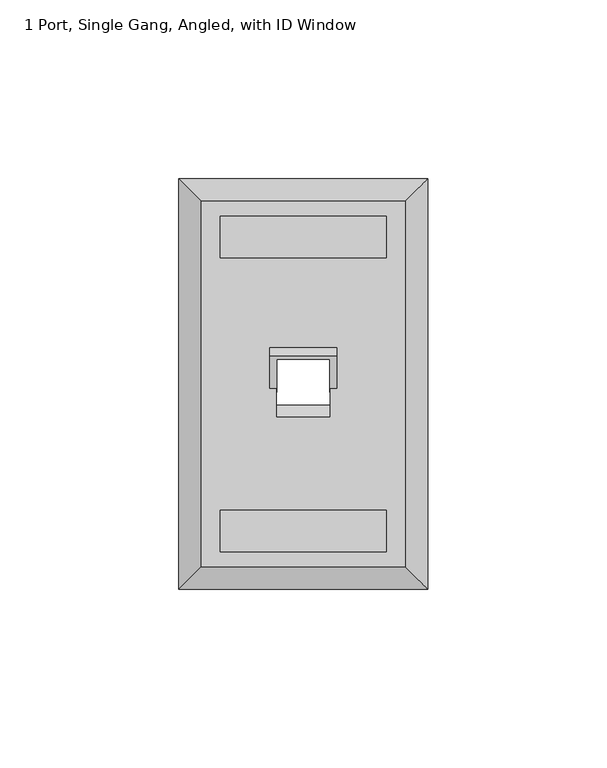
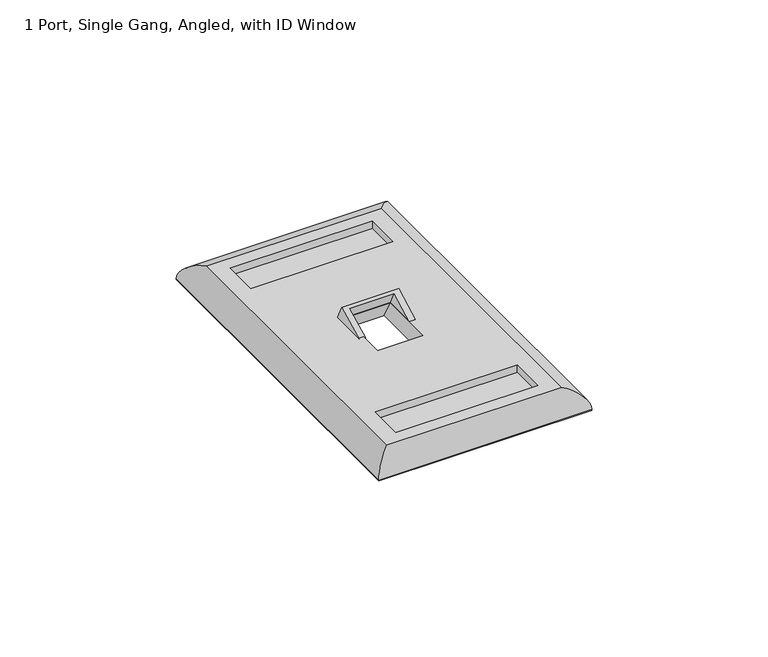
"""IFC4 building model written with IfcOpenShell, lengths in millimetres: electric appliance geometry, Data_Device-Work_Area-Leviton-QuickPort-Wallplate : 1 Port, Single Gang, Angled, with ID Window."""

from ifc_helpers import new_model, si_unit, frame, origin, place, context, project, spatial, ellipse_curve, faceted_brep, source, transform, mapped, element, save
from ifc_brep_helpers import plane_surface, cylinder_surface, advanced_brep


def electric_appliance_1_port_single_gang_angled_with_id_window_ec6bc51b(model_context):
    return source(origin(), model_context, "Body", "SolidModel", [
        advanced_brep(
        [(5.5499, -42.9895, 6.35), (5.5499, 59.3725, 6.35), (-51.6001, 59.3725, 6.35), (-51.6001, -42.9895, 6.35), (-46.2661, 55.1815, 6.35), (0.2159, 55.1815, 6.35), (0.2159, 43.4975, 6.35), (-46.2661, 43.4975, 6.35), (0.2159, -27.1145, 6.35), (0.2159, -38.7985, 6.35), (-46.2661, -38.7985, 6.35), (-46.2661, -27.1145, 6.35), (-15.6591, 17.5111842, 6.35), (-15.6591, -1.0382552, 6.35), (-30.3911, -1.0382552, 6.35), (-30.3911, 17.5111842, 6.35), (11.8999, 65.7225, 0.0), (11.8999, -49.3395, 0.0), (-57.9501, -49.3395, 0.0), (-57.9501, 65.7225, 0.0), (-15.6591, 2.2139994, 0.0), (-15.6591, 20.7634387, 0.0), (-30.3911, 20.7634387, 0.0), (-30.3911, 2.2139994, 0.0), (-57.9501, 65.7225, 0.254), (11.8999, 65.7225, 0.254), (-57.9501, -49.3395, 0.254), (11.8999, -49.3395, 0.254), (0.2159, 55.1815, 3.81), (-46.2661, 55.1815, 3.81), (-46.2661, 43.4975, 3.81), (0.2159, 43.4975, 3.81), (0.2159, -38.7985, 3.81), (0.2159, -27.1145, 3.81), (-46.2661, -27.1145, 3.81), (-46.2661, -38.7985, 3.81)],
        [
            (0, 1),
            (1, 2),
            (2, 3),
            (3, 0),
            (4, 5),
            (5, 6),
            (6, 7),
            (7, 4),
            (8, 9),
            (9, 10),
            (10, 11),
            (11, 8),
            (12, 13),
            (13, 14),
            (14, 15),
            (15, 12),
            (16, 17),
            (17, 18),
            (18, 19),
            (19, 16),
            (20, 21),
            (21, 22),
            (22, 23),
            (23, 20),
            (19, 24),
            (24, 25),
            (25, 16),
            (18, 26),
            (26, 24),
            (17, 27),
            (27, 26),
            (25, 27),
            (28, 29),
            (29, 30),
            (30, 31),
            (31, 28),
            (32, 33),
            (33, 34),
            (34, 35),
            (35, 32),
            (28, 5),
            (4, 29),
            (7, 30),
            (6, 31),
            (32, 9),
            (8, 33),
            (11, 34),
            (10, 35),
            (0, 27, ellipse_curve(frame((5.5499, -42.9895, -0.0052917), z_axis=(0.7071067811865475, 0.7071067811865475, 0.0), x_axis=(0.7071067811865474, -0.7071067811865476, 0.0)), 8.9877397, 6.3552917)),
            (25, 1, ellipse_curve(frame((5.5499, 59.3725, -0.0052917), z_axis=(0.7071067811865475, -0.7071067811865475, 0.0), x_axis=(-0.7071067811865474, -0.7071067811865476, 0.0)), 8.9877397, 6.3552917)),
            (3, 26, ellipse_curve(frame((-51.6001, -42.9895, -0.0052917), z_axis=(0.7071067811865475, -0.7071067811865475, 0.0), x_axis=(-0.7071067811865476, -0.7071067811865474, 0.0)), 8.9877397, 6.3552917)),
            (2, 24, ellipse_curve(frame((-51.6001, 59.3725, -0.0052917), z_axis=(-0.7071067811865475, -0.7071067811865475, 0.0), x_axis=(-0.7071067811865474, 0.7071067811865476, 0.0)), 8.9877397, 6.3552917)),
            (12, 21),
            (20, 13),
            (23, 14),
            (22, 15),
        ],
        [
            plane_surface(frame((-57.9501, 65.7225, 6.35), z_axis=(0.0, 0.0, 1.0), x_axis=(-1.0, 0.0, 0.0))),
            plane_surface(frame((-57.9501, 65.7225, 0.0), z_axis=(0.0, 0.0, -1.0), x_axis=(1.0, 0.0, 0.0))),
            plane_surface(frame((11.8999, 65.7225, 6.35), z_axis=(0.0, 1.0, 0.0), x_axis=(0.0, 0.0, -1.0))),
            plane_surface(frame((-57.9501, 65.7225, 6.35), z_axis=(-1.0, 0.0, 0.0), x_axis=(0.0, 0.0, -1.0))),
            plane_surface(frame((-57.9501, -49.3395, 6.35), z_axis=(0.0, -1.0, 0.0), x_axis=(0.0, 0.0, -1.0))),
            plane_surface(frame((11.8999, -49.3395, 6.35), z_axis=(1.0, 0.0, 0.0), x_axis=(0.0, 0.0, -1.0))),
            plane_surface(frame((-46.2661, 55.1815, 3.81), z_axis=(0.0, 0.0, 1.0), x_axis=(1.0, 0.0, 0.0))),
            plane_surface(frame((0.2159, 55.1815, 6.35), z_axis=(0.0, -1.0, 0.0), x_axis=(0.0, 0.0, -1.0))),
            plane_surface(frame((-46.2661, 55.1815, 6.35), z_axis=(1.0, 0.0, 0.0), x_axis=(0.0, 0.0, -1.0))),
            plane_surface(frame((-46.2661, 43.4975, 6.35), z_axis=(0.0, 1.0, 0.0), x_axis=(0.0, 0.0, -1.0))),
            plane_surface(frame((0.2159, 43.4975, 6.35), z_axis=(-1.0, 0.0, 0.0), x_axis=(0.0, 0.0, -1.0))),
            plane_surface(frame((0.2159, -38.7985, 6.35), z_axis=(-1.0, 0.0, 0.0), x_axis=(0.0, 0.0, -1.0))),
            plane_surface(frame((0.2159, -27.1145, 6.35), z_axis=(0.0, -1.0, 0.0), x_axis=(0.0, 0.0, -1.0))),
            plane_surface(frame((-46.2661, -27.1145, 6.35), z_axis=(1.0, 0.0, 0.0), x_axis=(0.0, 0.0, -1.0))),
            plane_surface(frame((-46.2661, -38.7985, 6.35), z_axis=(0.0, 1.0, 0.0), x_axis=(0.0, 0.0, -1.0))),
            cylinder_surface(frame((5.5499, 65.7225, -0.0052917), z_axis=(0.0, -1.0, 0.0), x_axis=(1.0, 0.0, 0.0)), 6.3552917),
            cylinder_surface(frame((11.8999, -42.9895, -0.0052917), z_axis=(-1.0, 0.0, 0.0), x_axis=(0.0, -1.0, 0.0)), 6.3552917),
            cylinder_surface(frame((-51.6001, -49.3395, -0.0052917), z_axis=(0.0, 1.0, 0.0), x_axis=(-1.0, 0.0, 0.0)), 6.3552917),
            cylinder_surface(frame((-57.9501, 59.3725, -0.0052917), z_axis=(1.0, 0.0, 0.0), x_axis=(0.0, 1.0, 0.0)), 6.3552917),
            plane_surface(frame((-15.6591, 22.0501005, -2.5121963), z_axis=(-1.0, 0.0, 0.0), x_axis=(0.0, -0.45585538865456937, 0.8900538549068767))),
            plane_surface(frame((-15.6591, 7.3553113, -10.0383688), z_axis=(0.0, 0.8900538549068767, 0.45585538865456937), x_axis=(0.0, -0.45585538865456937, 0.8900538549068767))),
            plane_surface(frame((-30.3911, 7.3553113, -10.0383688), z_axis=(1.0, 0.0, 0.0), x_axis=(0.0, -0.45585538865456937, 0.8900538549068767))),
            plane_surface(frame((-30.3911, 22.0501005, -2.5121963), z_axis=(0.0, -0.8900538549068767, -0.4558553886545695), x_axis=(0.0, -0.4558553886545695, 0.8900538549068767))),
        ],
        [
            (0, [[1, 2, 3, 4], [5, 6, 7, 8], [9, 10, 11, 12], [13, 14, 15, 16]]),
            (1, [[17, 18, 19, 20], [21, 22, 23, 24]]),
            (2, [[-20, 25, 26, 27]]),
            (3, [[-19, 28, 29, -25]]),
            (4, [[-18, 30, 31, -28]]),
            (5, [[-17, -27, 32, -30]]),
            (6, [[33, 34, 35, 36]]),
            (6, [[37, 38, 39, 40]]),
            (7, [[-33, 41, -5, 42]]),
            (8, [[-34, -42, -8, 43]]),
            (9, [[-35, -43, -7, 44]]),
            (10, [[-36, -44, -6, -41]]),
            (11, [[-37, 45, -9, 46]]),
            (12, [[-38, -46, -12, 47]]),
            (13, [[-39, -47, -11, 48]]),
            (14, [[-40, -48, -10, -45]]),
            (15, [[49, -32, 50, -1]]),
            (16, [[-49, -4, 51, -31]]),
            (17, [[-51, -3, 52, -29]]),
            (18, [[-50, -26, -52, -2]]),
            (19, [[53, -21, 54, -13]]),
            (20, [[-54, -24, 55, -14]]),
            (21, [[-55, -23, 56, -15]]),
            (22, [[-53, -16, -56, -22]]),
        ],
    ),
        faceted_brep([(-13.6906, 5.9218102, 6.35), (-13.6906, 18.6437374, 6.35), (-13.6906, 16.0000684, 11.5117419), (-32.3596, 5.9218102, 6.35), (-32.3596, 16.0000684, 11.5117419), (-32.3596, 18.6437374, 6.35), (-30.3911, 5.9218102, 6.35), (-30.3911, 15.1028643, 11.0522244), (-15.6591, 15.1028643, 11.0522244), (-15.6591, 5.9218102, 6.35), (-15.6591, 17.5111842, 6.35), (-30.3911, 17.5111842, 6.35)], [[[0, 1, 2]], [[3, 4, 5]], [[0, 2, 4, 3, 6, 7, 8, 9]], [[1, 0, 9, 10, 11, 6, 3, 5]], [[2, 1, 5, 4]], [[8, 10, 9]], [[11, 7, 6]], [[10, 8, 7, 11]]]),
        faceted_brep([(11.6459, 65.4685, 0.254), (-57.6961, 65.4685, 0.254), (-57.6961, -49.0855, 0.254), (11.6459, -49.0855, 0.254), (-15.6591, 20.6333485, 0.254), (-15.6591, 2.0839092, 0.254), (-30.3911, 2.0839092, 0.254), (-30.3911, 20.6333485, 0.254), (11.6459, 65.4685, 0.0), (11.6459, -49.0855, 0.0), (-57.6961, -49.0855, 0.0), (-57.6961, 65.4685, 0.0), (-15.6591, 2.2139994, 0.0), (-15.6591, 20.7634387, 0.0), (-30.3911, 20.7634387, 0.0), (-30.3911, 2.2139994, 0.0)], [[[0, 1, 2, 3], [4, 5, 6, 7]], [[8, 9, 10, 11], [12, 13, 14, 15]], [[1, 0, 8, 11]], [[2, 1, 11, 10]], [[3, 2, 10, 9]], [[0, 3, 9, 8]], [[4, 13, 12, 5]], [[5, 12, 15, 6]], [[6, 15, 14, 7]], [[13, 4, 7, 14]]]),
    ])


if __name__ == "__main__":
    model = new_model("IFC4")
    model_context = context("Model", 3, world=origin())
    ifc_project = project(units=[si_unit("LENGTHUNIT", "METRE", prefix="MILLI")], contexts=[model_context])
    site = spatial("IfcSite", under=ifc_project)
    building = spatial("IfcBuilding", under=site)
    placement = place(None, origin())
    electric_appliance_1_port_single_gang_angled_with_id_window_shape = electric_appliance_1_port_single_gang_angled_with_id_window_ec6bc51b(model_context)
    element("IfcElectricAppliance", 1, ObjectType="Data_Device-Work_Area-Leviton-QuickPort-Wallplate : 1 Port, Single Gang, Angled, with ID Window", at=placement, inside=building, context=model_context, shape_type="MappedRepresentation", body=[
        mapped(electric_appliance_1_port_single_gang_angled_with_id_window_shape, transform((0.0, 0.0, 0.0), x_axis=(1.0, 0.0, 0.0), y_axis=(0.0, 1.0, 0.0), z_axis=(0.0, 0.0, 1.0))),
    ])
    save(model, "model.ifc")
